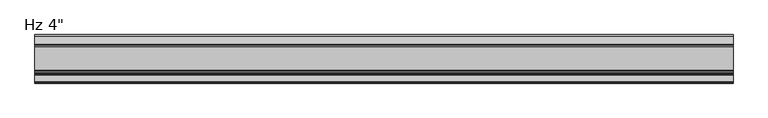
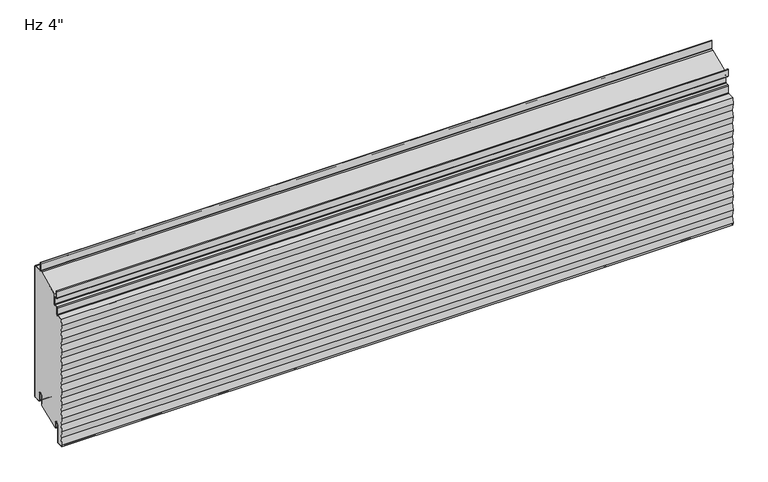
"""IFC4 building model written with IfcOpenShell, lengths in millimetres: plate geometry."""

from ifc_helpers import new_model, si_unit, point, frame, frame_2d, origin, place, context, project, spatial, polyline, circle_curve, ellipse_curve, trimmed, segment, composite_curve, outline, extrude, source, transform, mapped, element, save
from ifc_brep_helpers import plane_surface, cylinder_surface, revolved_surface, extruded_surface, advanced_brep


def plate_e58c1bb9(model_context):
    return source(origin(), model_context, "Body", "SolidModel", [
        extrude(outline(composite_curve([segment(trimmed(circle_curve(frame_2d((-21.43125, 19.05)), 4.96875), [point((-16.4625, 19.05))], [point((-26.4, 19.05))], True, "CARTESIAN"), True, "CONTINUOUS"), segment(polyline([(-26.4, 19.05), (-26.4, -3.1323422), (-74.6157227, -23.01875), (-76.2, -23.01875), (-76.2, -13.5080174), (-76.99375, -13.5080174), (-76.7875, -11.9205174)]), True, "CONTINUOUS"), segment(trimmed(circle_curve(frame_2d((-81.75625, -11.9205174)), 4.96875), [point((-76.7875, -11.9205174))], [point((-86.725, -11.9205174))], True, "CARTESIAN"), True, "CONTINUOUS"), segment(polyline([(-86.725, -11.9205174), (-86.725, -50.1038221)]), True, "CONTINUOUS"), segment(trimmed(circle_curve(frame_2d((-88.10625, -50.1038221)), 1.38125), [point((-86.725, -50.1038221))], [point((-88.033961, -51.4831791))], False, "CARTESIAN"), True, "CONTINUOUS"), segment(polyline([(-88.033961, -51.4831791), (-99.146461, -52.0655606)]), True, "CONTINUOUS"), segment(trimmed(circle_curve(frame_2d((-99.21875, -50.6862035)), 1.38125), [point((-99.146461, -52.0655606))], [point((-100.5310452, -51.1171708))], False, "CARTESIAN"), True, "CONTINUOUS"), segment(polyline([(-100.5310452, -51.1171708), (-100.8936034, -48.8511825), (-98.4552034, -33.6111825), (-100.8936034, -18.3711825), (-98.4552034, -3.1311825), (-100.8936034, 12.1088175), (-98.4552034, 27.3488175), (-100.8936034, 42.5888175), (-98.4552034, 57.8288175), (-100.8936034, 73.0688175), (-98.4552034, 88.3088175), (-100.8936034, 103.5488175), (-98.4552034, 118.7888175), (-100.8936034, 134.0288175), (-98.4552034, 149.2688175), (-100.8936034, 164.5088175), (-98.4552034, 179.7488175), (-100.8936034, 194.9888175), (-98.4552034, 210.2288175), (-100.8611926, 225.26625), (-98.81595, 238.0490161), (-85.5895807, 238.7421807)]), True, "CONTINUOUS"), segment(trimmed(circle_curve(frame_2d((-85.725, 241.3261347)), 2.5875), [point((-85.5895807, 238.7421807))], [point((-83.1375, 241.3261347))], True, "CARTESIAN"), True, "CONTINUOUS"), segment(polyline([(-83.1375, 241.3261347), (-83.1375, 255.4824411)]), True, "CONTINUOUS"), segment(trimmed(circle_curve(frame_2d((-81.75625, 255.4824411)), 1.38125), [point((-83.1375, 255.4824411))], [point((-81.828539, 256.8617981))], False, "CARTESIAN"), True, "CONTINUOUS"), segment(polyline([(-81.828539, 256.8617981), (-76.0645807, 257.1638744)]), True, "CONTINUOUS"), segment(trimmed(circle_curve(frame_2d((-76.2, 259.7478283)), 2.5875), [point((-76.0645807, 257.1638744))], [point((-73.6125, 259.7478283))], True, "CARTESIAN"), True, "CONTINUOUS"), segment(polyline([(-73.6125, 259.7478283), (-73.6125, 282.1892934), (-24.9057308, 303.00625), (-2.38125, 303.00625)]), True, "CONTINUOUS"), segment(trimmed(circle_curve(frame_2d((-2.38125, 301.625)), 1.38125), [point((-2.38125, 303.00625))], [point((-1.0, 301.625))], False, "CARTESIAN"), True, "CONTINUOUS"), segment(polyline([(-1.0, 301.625), (-1.0, 3.175)]), True, "CONTINUOUS"), segment(trimmed(circle_curve(frame_2d((-2.38125, 3.175)), 1.38125), [point((-1.0, 3.175))], [point((-2.38125, 1.79375))], False, "CARTESIAN"), True, "CONTINUOUS"), segment(polyline([(-2.38125, 1.79375), (-15.08125, 1.79375)]), True, "CONTINUOUS"), segment(trimmed(circle_curve(frame_2d((-15.08125, 3.175)), 1.38125), [point((-15.08125, 1.79375))], [point((-16.4625, 3.175))], False, "CARTESIAN"), True, "CONTINUOUS"), segment(polyline([(-16.4625, 3.175), (-16.4625, 19.05)]), True, "CONTINUOUS")], self_intersect=False)), frame((-730.0, 0.0, 0.0), z_axis=(1.0, 0.0, 0.0), x_axis=(0.0, 1.0, 0.0)), (0.0, 0.0, 1.0), 1460.0),
        extrude(outline(composite_curve([segment(polyline([(-25.4, 0.79375), (-26.4, 0.79375), (-26.4, 19.05)]), True, "CONTINUOUS"), segment(trimmed(circle_curve(frame_2d((-21.43125, 19.05)), 4.96875), [point((-26.4, 19.05))], [point((-16.4625, 19.05))], False, "CARTESIAN"), True, "CONTINUOUS"), segment(polyline([(-16.4625, 19.05), (-16.4625, 3.175)]), True, "CONTINUOUS"), segment(trimmed(circle_curve(frame_2d((-15.08125, 3.175)), 1.38125), [point((-16.4625, 3.175))], [point((-15.08125, 1.79375))], True, "CARTESIAN"), True, "CONTINUOUS"), segment(polyline([(-15.08125, 1.79375), (-2.38125, 1.79375)]), True, "CONTINUOUS"), segment(trimmed(circle_curve(frame_2d((-2.38125, 3.175)), 1.38125), [point((-2.38125, 1.79375))], [point((-1.0, 3.175))], True, "CARTESIAN"), True, "CONTINUOUS"), segment(polyline([(-1.0, 3.175), (-1.0, 301.625)]), True, "CONTINUOUS"), segment(trimmed(circle_curve(frame_2d((-2.38125, 301.625)), 1.38125), [point((-1.0, 301.625))], [point((-2.38125, 303.00625))], True, "CARTESIAN"), True, "CONTINUOUS"), segment(polyline([(-2.38125, 303.00625), (-19.446875, 303.00625)]), True, "CONTINUOUS"), segment(trimmed(circle_curve(frame_2d((-19.446875, 305.59375)), 2.5875), [point((-19.446875, 303.00625))], [point((-22.034375, 305.59375))], False, "CARTESIAN"), True, "CONTINUOUS"), segment(polyline([(-22.034375, 305.59375), (-22.034375, 323.05625), (-21.034375, 323.05625), (-21.034375, 305.59375)]), True, "CONTINUOUS"), segment(trimmed(circle_curve(frame_2d((-19.446875, 305.59375)), 1.5875), [point((-21.034375, 305.59375))], [point((-19.446875, 304.00625))], True, "CARTESIAN"), True, "CONTINUOUS"), segment(polyline([(-19.446875, 304.00625), (-2.38125, 304.00625)]), True, "CONTINUOUS"), segment(trimmed(circle_curve(frame_2d((-2.38125, 301.625)), 2.38125), [point((-2.38125, 304.00625))], [point((0.0, 301.625))], False, "CARTESIAN"), True, "CONTINUOUS"), segment(polyline([(0.0, 301.625), (0.0, 3.175)]), True, "CONTINUOUS"), segment(trimmed(circle_curve(frame_2d((-2.38125, 3.175)), 2.38125), [point((0.0, 3.175))], [point((-2.38125, 0.79375))], False, "CARTESIAN"), True, "CONTINUOUS"), segment(polyline([(-2.38125, 0.79375), (-15.08125, 0.79375)]), True, "CONTINUOUS"), segment(trimmed(circle_curve(frame_2d((-15.08125, 3.175)), 2.38125), [point((-15.08125, 0.79375))], [point((-17.4625, 3.175))], False, "CARTESIAN"), True, "CONTINUOUS"), segment(polyline([(-17.4625, 3.175), (-17.4625, 19.05)]), True, "CONTINUOUS"), segment(trimmed(circle_curve(frame_2d((-21.43125, 19.05)), 3.96875), [point((-17.4625, 19.05))], [point((-25.4, 19.05))], True, "CARTESIAN"), True, "CONTINUOUS"), segment(polyline([(-25.4, 19.05), (-25.4, 0.79375)]), True, "CONTINUOUS")], self_intersect=False)), frame((-730.0, 0.0, 0.0), z_axis=(1.0, 0.0, 0.0), x_axis=(0.0, 1.0, 0.0)), (0.0, 0.0, 1.0), 1460.0),
        advanced_brep(
        [(-730.0, -76.2, -23.2314549), (-730.0, -77.7875, -23.2314549), (-730.0, -77.7875, -11.9205174), (-730.0, -85.725, -11.9205174), (-730.0, -85.725, -50.1038221), (-730.0, -87.981625, -52.4818086), (-730.0, -100.913818, -53.1595562), (-730.0, -101.6, -48.8709186), (-730.0, -99.1616, -33.6309186), (-730.0, -101.6, -18.3909186), (-730.0, -99.1616, -3.1509186), (-730.0, -101.6, 12.0890814), (-730.0, -99.1616, 27.3290814), (-730.0, -101.6, 42.5690814), (-730.0, -99.1616, 57.8090814), (-730.0, -101.6, 73.0490814), (-730.0, -99.1616, 88.2890814), (-730.0, -101.6, 103.5290814), (-730.0, -99.1616, 118.7690814), (-730.0, -101.6, 134.0090814), (-730.0, -99.1616, 149.2490814), (-730.0, -101.6, 164.4890814), (-730.0, -99.1616, 179.7290814), (-730.0, -101.6, 194.9690814), (-730.0, -99.1616, 210.2090814), (-730.0, -101.5837946, 225.3477976), (-730.0, -99.4289309, 239.0182635), (-730.0, -85.6419167, 239.7408103), (-730.0, -84.1375, 241.3261347), (-730.0, -84.1375, 255.4824411), (-730.0, -81.880875, 257.8604276), (-730.0, -76.1169167, 258.1625039), (-730.0, -74.6125, 259.7478283), (-730.0, -74.6125, 274.6232326), (-730.0, -76.2, 276.2107326), (-730.0, -80.3671875, 276.2107326), (-730.0, -82.7484375, 278.5919826), (-730.0, -82.7484375, 293.0836032), (-730.0, -80.9546875, 293.0836032), (-730.0, -80.9546875, 283.3544826), (-730.0, -81.7484375, 283.3544826), (-730.0, -81.7484375, 278.5919826), (-730.0, -80.3671875, 277.2107326), (-730.0, -76.2, 277.2107326), (-730.0, -73.6125, 274.6232326), (-730.0, -73.6125, 259.7478283), (-730.0, -76.0645807, 257.1638744), (-730.0, -81.828539, 256.8617981), (-730.0, -83.1375, 255.4824411), (-730.0, -83.1375, 241.3261347), (-730.0, -85.5895807, 238.7421807), (-730.0, -98.5692225, 238.0619465), (-730.0, -100.5872809, 225.4490814), (-730.0, -98.1488809, 210.2090814), (-730.0, -100.5872809, 194.9690814), (-730.0, -98.1488809, 179.7290814), (-730.0, -100.5872809, 164.4890814), (-730.0, -98.1488809, 149.2490814), (-730.0, -100.5872809, 134.0090814), (-730.0, -98.1488809, 118.7690814), (-730.0, -100.5872809, 103.5290814), (-730.0, -98.1488809, 88.2890814), (-730.0, -100.5872809, 73.0490814), (-730.0, -98.1488809, 57.8090814), (-730.0, -100.5872809, 42.5690814), (-730.0, -98.1488809, 27.3290814), (-730.0, -100.5872809, 12.0890814), (-730.0, -98.1488809, -3.1509186), (-730.0, -100.5872809, -18.3909186), (-730.0, -98.1488809, -33.6309186), (-730.0, -100.5872809, -48.8709186), (-730.0, -100.0684074, -52.1138777), (-730.0, -88.033961, -51.4831791), (-730.0, -86.725, -50.1038221), (-730.0, -86.725, -11.9205174), (-730.0, -76.7875, -11.9205174), (-730.0, -76.99375, -13.5080174), (-730.0, -76.2, -13.5080174), (730.0, -76.2, -23.2314549), (730.0, -76.2, -13.5080174), (730.0, -76.99375, -13.5080174), (730.0, -76.7875, -11.9205174), (730.0, -86.725, -11.9205174), (730.0, -86.725, -50.1038221), (730.0, -88.033961, -51.4831791), (730.0, -100.0684074, -52.1138777), (730.0, -100.5872809, -48.8709186), (730.0, -98.1488809, -33.6309186), (730.0, -100.5872809, -18.3909186), (730.0, -98.1488809, -3.1509186), (730.0, -100.5872809, 12.0890814), (730.0, -98.1488809, 27.3290814), (730.0, -100.5872809, 42.5690814), (730.0, -98.1488809, 57.8090814), (730.0, -100.5872809, 73.0490814), (730.0, -98.1488809, 88.2890814), (730.0, -100.5872809, 103.5290814), (730.0, -98.1488809, 118.7690814), (730.0, -100.5872809, 134.0090814), (730.0, -98.1488809, 149.2490814), (730.0, -100.5872809, 164.4890814), (730.0, -98.1488809, 179.7290814), (730.0, -100.5872809, 194.9690814), (730.0, -98.1488809, 210.2090814), (730.0, -100.5710755, 225.3477976), (730.0, -98.5692225, 238.0619465), (730.0, -85.5895807, 238.7421807), (730.0, -83.1375, 241.3261347), (730.0, -83.1375, 255.4824411), (730.0, -81.828539, 256.8617981), (730.0, -76.0645807, 257.1638744), (730.0, -73.6125, 259.7478283), (730.0, -73.6125, 274.6232326), (730.0, -76.2, 277.2107326), (730.0, -80.3671875, 277.2107326), (730.0, -81.7484375, 278.5919826), (730.0, -81.7484375, 283.3544826), (730.0, -80.9546875, 283.3544826), (730.0, -80.9546875, 293.0836032), (730.0, -82.7484375, 293.0836032), (730.0, -82.7484375, 278.5919826), (730.0, -80.3671875, 276.2107326), (730.0, -76.2, 276.2107326), (730.0, -74.6125, 274.6232326), (730.0, -74.6125, 259.7478283), (730.0, -76.1169167, 258.1625039), (730.0, -81.880875, 257.8604276), (730.0, -84.1375, 255.4824411), (730.0, -84.1375, 241.3261347), (730.0, -85.6419167, 239.7408103), (730.0, -99.4289309, 239.0182635), (730.0, -101.6, 225.4490814), (730.0, -99.1616, 210.2090814), (730.0, -101.6, 194.9690814), (730.0, -99.1616, 179.7290814), (730.0, -101.6, 164.4890814), (730.0, -99.1616, 149.2490814), (730.0, -101.6, 134.0090814), (730.0, -99.1616, 118.7690814), (730.0, -101.6, 103.5290814), (730.0, -99.1616, 88.2890814), (730.0, -101.6, 73.0490814), (730.0, -99.1616, 57.8090814), (730.0, -101.6, 42.5690814), (730.0, -99.1616, 27.3290814), (730.0, -101.6, 12.0890814), (730.0, -99.1616, -3.1509186), (730.0, -101.6, -18.3909186), (730.0, -99.1616, -33.6309186), (730.0, -101.6, -48.8709186), (730.0, -100.913818, -53.1595562), (730.0, -87.981625, -52.4818086), (730.0, -85.725, -50.1038221), (730.0, -85.725, -11.9205174), (730.0, -77.7875, -11.9205174), (730.0, -77.7875, -23.2314549)],
        [
            (0, 1, circle_curve(frame((-730.0, -76.99375, -23.2314549), z_axis=(-1.0, 0.0, 0.0), x_axis=(0.0, 0.0, 1.0)), 0.79375)),
            (1, 2),
            (2, 3, circle_curve(frame((-730.0, -81.75625, -11.9205174), z_axis=(1.0, 0.0, 0.0), x_axis=(0.0, 0.0, 1.0)), 3.96875)),
            (3, 4),
            (4, 5, circle_curve(frame((-730.0, -88.10625, -50.1038221), z_axis=(-1.0, 0.0, 0.0), x_axis=(0.0, 0.0, 1.0)), 2.38125)),
            (5, 6),
            (6, 7),
            (7, 8),
            (8, 9),
            (9, 10),
            (10, 11),
            (11, 12),
            (12, 13),
            (13, 14),
            (14, 15),
            (15, 16),
            (16, 17),
            (17, 18),
            (18, 19),
            (19, 20),
            (20, 21),
            (21, 22),
            (22, 23),
            (23, 24),
            (24, 25),
            (25, 26),
            (26, 27),
            (27, 28, circle_curve(frame((-730.0, -85.725, 241.3261347), z_axis=(1.0, 0.0, 0.0), x_axis=(0.0, 0.0, 1.0)), 1.5875)),
            (28, 29),
            (29, 30, circle_curve(frame((-730.0, -81.75625, 255.4824411), z_axis=(-1.0, 0.0, 0.0), x_axis=(0.0, 0.0, 1.0)), 2.38125)),
            (30, 31),
            (31, 32, circle_curve(frame((-730.0, -76.2, 259.7478283), z_axis=(1.0, 0.0, 0.0), x_axis=(0.0, 0.0, 1.0)), 1.5875)),
            (32, 33),
            (33, 34, circle_curve(frame((-730.0, -76.2, 274.6232326), z_axis=(1.0, 0.0, 0.0), x_axis=(0.0, 0.0, 1.0)), 1.5875)),
            (34, 35),
            (35, 36, circle_curve(frame((-730.0, -80.3671875, 278.5919826), z_axis=(-1.0, 0.0, 0.0), x_axis=(0.0, 0.0, 1.0)), 2.38125)),
            (36, 37),
            (37, 38, ellipse_curve(frame((-730.0, -81.8515625, 293.0836032), z_axis=(-1.0, 0.0, 0.0), x_axis=(0.0, 1.0, 0.0)), 0.896875, 0.7852275)),
            (38, 39),
            (39, 40),
            (40, 41),
            (41, 42, circle_curve(frame((-730.0, -80.3671875, 278.5919826), z_axis=(1.0, 0.0, 0.0), x_axis=(0.0, 0.0, 1.0)), 1.38125)),
            (42, 43),
            (43, 44, circle_curve(frame((-730.0, -76.2, 274.6232326), z_axis=(-1.0, 0.0, 0.0), x_axis=(0.0, 0.0, 1.0)), 2.5875)),
            (44, 45),
            (45, 46, circle_curve(frame((-730.0, -76.2, 259.7478283), z_axis=(-1.0, 0.0, 0.0), x_axis=(0.0, 0.0, 1.0)), 2.5875)),
            (46, 47),
            (47, 48, circle_curve(frame((-730.0, -81.75625, 255.4824411), z_axis=(1.0, 0.0, 0.0), x_axis=(0.0, 0.0, 1.0)), 1.38125)),
            (48, 49),
            (49, 50, circle_curve(frame((-730.0, -85.725, 241.3261347), z_axis=(-1.0, 0.0, 0.0), x_axis=(0.0, 0.0, 1.0)), 2.5875)),
            (50, 51),
            (51, 52),
            (52, 53),
            (53, 54),
            (54, 55),
            (55, 56),
            (56, 57),
            (57, 58),
            (58, 59),
            (59, 60),
            (60, 61),
            (61, 62),
            (62, 63),
            (63, 64),
            (64, 65),
            (65, 66),
            (66, 67),
            (67, 68),
            (68, 69),
            (69, 70),
            (70, 71),
            (71, 72),
            (72, 73, circle_curve(frame((-730.0, -88.10625, -50.1038221), z_axis=(1.0, 0.0, 0.0), x_axis=(0.0, 0.0, 1.0)), 1.38125)),
            (73, 74),
            (74, 75, circle_curve(frame((-730.0, -81.75625, -11.9205174), z_axis=(-1.0, 0.0, 0.0), x_axis=(0.0, 0.0, 1.0)), 4.96875)),
            (75, 76),
            (76, 77),
            (77, 0),
            (78, 79),
            (79, 80),
            (80, 81),
            (81, 82, circle_curve(frame((730.0, -81.75625, -11.9205174), z_axis=(1.0, 0.0, 0.0), x_axis=(0.0, 0.0, 1.0)), 4.96875)),
            (82, 83),
            (83, 84, circle_curve(frame((730.0, -88.10625, -50.1038221), z_axis=(-1.0, 0.0, 0.0), x_axis=(0.0, 0.0, 1.0)), 1.38125)),
            (84, 85),
            (85, 86),
            (86, 87),
            (87, 88),
            (88, 89),
            (89, 90),
            (90, 91),
            (91, 92),
            (92, 93),
            (93, 94),
            (94, 95),
            (95, 96),
            (96, 97),
            (97, 98),
            (98, 99),
            (99, 100),
            (100, 101),
            (101, 102),
            (102, 103),
            (103, 104),
            (104, 105),
            (105, 106),
            (106, 107, circle_curve(frame((730.0, -85.725, 241.3261347), z_axis=(1.0, 0.0, 0.0), x_axis=(0.0, 0.0, 1.0)), 2.5875)),
            (107, 108),
            (108, 109, circle_curve(frame((730.0, -81.75625, 255.4824411), z_axis=(-1.0, 0.0, 0.0), x_axis=(0.0, 0.0, 1.0)), 1.38125)),
            (109, 110),
            (110, 111, circle_curve(frame((730.0, -76.2, 259.7478283), z_axis=(1.0, 0.0, 0.0), x_axis=(0.0, 0.0, 1.0)), 2.5875)),
            (111, 112),
            (112, 113, circle_curve(frame((730.0, -76.2, 274.6232326), z_axis=(1.0, 0.0, 0.0), x_axis=(0.0, 0.0, 1.0)), 2.5875)),
            (113, 114),
            (114, 115, circle_curve(frame((730.0, -80.3671875, 278.5919826), z_axis=(-1.0, 0.0, 0.0), x_axis=(0.0, 0.0, 1.0)), 1.38125)),
            (115, 116),
            (116, 117),
            (117, 118),
            (118, 119, ellipse_curve(frame((730.0, -81.8515625, 293.0836032), z_axis=(1.0, 0.0, 0.0), x_axis=(0.0, 1.0, 0.0)), 0.896875, 0.7852275)),
            (119, 120),
            (120, 121, circle_curve(frame((730.0, -80.3671875, 278.5919826), z_axis=(1.0, 0.0, 0.0), x_axis=(0.0, 0.0, 1.0)), 2.38125)),
            (121, 122),
            (122, 123, circle_curve(frame((730.0, -76.2, 274.6232326), z_axis=(-1.0, 0.0, 0.0), x_axis=(0.0, 0.0, 1.0)), 1.5875)),
            (123, 124),
            (124, 125, circle_curve(frame((730.0, -76.2, 259.7478283), z_axis=(-1.0, 0.0, 0.0), x_axis=(0.0, 0.0, 1.0)), 1.5875)),
            (125, 126),
            (126, 127, circle_curve(frame((730.0, -81.75625, 255.4824411), z_axis=(1.0, 0.0, 0.0), x_axis=(0.0, 0.0, 1.0)), 2.38125)),
            (127, 128),
            (128, 129, circle_curve(frame((730.0, -85.725, 241.3261347), z_axis=(-1.0, 0.0, 0.0), x_axis=(0.0, 0.0, 1.0)), 1.5875)),
            (129, 130),
            (130, 131),
            (131, 132),
            (132, 133),
            (133, 134),
            (134, 135),
            (135, 136),
            (136, 137),
            (137, 138),
            (138, 139),
            (139, 140),
            (140, 141),
            (141, 142),
            (142, 143),
            (143, 144),
            (144, 145),
            (145, 146),
            (146, 147),
            (147, 148),
            (148, 149),
            (149, 150),
            (150, 151),
            (151, 152, circle_curve(frame((730.0, -88.10625, -50.1038221), z_axis=(1.0, 0.0, 0.0), x_axis=(0.0, 0.0, 1.0)), 2.38125)),
            (152, 153),
            (153, 154, circle_curve(frame((730.0, -81.75625, -11.9205174), z_axis=(-1.0, 0.0, 0.0), x_axis=(0.0, 0.0, 1.0)), 3.96875)),
            (154, 155),
            (155, 78, circle_curve(frame((730.0, -76.99375, -23.2314549), z_axis=(1.0, 0.0, 0.0), x_axis=(0.0, 0.0, 1.0)), 0.79375)),
            (56, 100),
            (99, 57),
            (98, 58),
            (97, 59),
            (71, 85),
            (84, 72),
            (83, 73),
            (82, 74),
            (81, 75),
            (76, 80),
            (79, 77),
            (39, 117),
            (116, 40),
            (38, 118),
            (37, 119),
            (26, 130),
            (129, 27),
            (50, 106),
            (105, 51),
            (24, 132),
            (131, 25),
            (52, 104),
            (103, 53),
            (102, 54),
            (101, 55),
            (21, 135),
            (134, 22),
            (133, 23),
            (20, 136),
            (18, 138),
            (137, 19),
            (16, 140),
            (139, 17),
            (14, 142),
            (141, 15),
            (12, 144),
            (143, 13),
            (10, 146),
            (145, 11),
            (8, 148),
            (147, 9),
            (6, 150),
            (149, 7),
            (69, 87),
            (86, 70),
            (67, 89),
            (88, 68),
            (65, 91),
            (90, 66),
            (63, 93),
            (92, 64),
            (61, 95),
            (94, 62),
            (96, 60),
            (49, 107),
            (47, 109),
            (108, 48),
            (45, 111),
            (110, 46),
            (41, 115),
            (114, 42),
            (43, 113),
            (112, 44),
            (36, 120),
            (34, 122),
            (121, 35),
            (32, 124),
            (123, 33),
            (30, 126),
            (125, 31),
            (28, 128),
            (127, 29),
            (5, 151),
            (3, 153),
            (152, 4),
            (1, 155),
            (154, 2),
            (78, 0),
        ],
        [
            plane_surface(frame((-730.0, -101.6, 152.4), z_axis=(-1.0, 0.0, 0.0), x_axis=(0.0, -1.0, 0.0))),
            plane_surface(frame((730.0, -101.6, 152.4), z_axis=(1.0, 0.0, 0.0), x_axis=(0.0, -1.0, 0.0))),
            plane_surface(frame((-730.0, -98.1488809, 149.2490814), z_axis=(0.0, 0.9874406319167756, 0.15799050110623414), x_axis=(1.0, 0.0, 0.0))),
            plane_surface(frame((-730.0, -100.5872809, 134.0090814), z_axis=(0.0, 0.987440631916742, -0.15799050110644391), x_axis=(1.0, 0.0, 0.0))),
            plane_surface(frame((-730.0, -98.1488809, 118.7690814), z_axis=(0.0, 0.987440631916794, 0.1579905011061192), x_axis=(1.0, 0.0, 0.0))),
            plane_surface(frame((-730.0, -88.033961, -51.4831791), z_axis=(0.0, -0.052335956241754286, 0.9986295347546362), x_axis=(1.0, 0.0, 0.0))),
            revolved_surface(polyline([(730.0, -88.10625, -48.7225721), (-730.0, -88.10625, -48.7225721)]), (-730.0, -88.10625, -50.1038221), (1.0, 0.0, 0.0)),
            plane_surface(frame((-730.0, -86.725, -11.9205174), z_axis=(0.0, -1.0, 0.0), x_axis=(1.0, 0.0, 0.0))),
            cylinder_surface(frame((-730.0, -81.75625, -11.9205174), z_axis=(-1.0, 0.0, 0.0), x_axis=(0.0, 0.0, 1.0)), 4.96875),
            plane_surface(frame((-730.0, -76.2, -13.5080174), z_axis=(0.0, 0.0, 1.0), x_axis=(1.0, 0.0, 0.0))),
            plane_surface(frame((-730.0, -76.99375, -13.5080174), z_axis=(0.0, 0.9916655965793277, -0.12883844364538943), x_axis=(1.0, 0.0, 0.0))),
            plane_surface(frame((-730.0, -81.7484375, 283.3544826), z_axis=(0.0, 0.0, -1.0), x_axis=(1.0, 0.0, 0.0))),
            plane_surface(frame((-730.0, -80.9546875, 283.3544826), z_axis=(0.0, 1.0, 0.0), x_axis=(1.0, 0.0, 0.0))),
            extruded_surface(trimmed(ellipse_curve(frame((-730.0, -81.8515625, 293.0836032), z_axis=(1.0, 0.0, 0.0), x_axis=(0.0, 1.0, 0.0)), 0.896875, 0.7852275), [point((-730.0, -80.9546875, 293.0836032))], [point((-730.0, -82.7484375, 293.0836032))], True, "CARTESIAN"), (1460.0, 0.0, 0.0), 1460.0),
            plane_surface(frame((-730.0, -85.6419167, 239.7408103), z_axis=(0.0, -0.052335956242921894, 0.998629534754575), x_axis=(1.0, 0.0, 0.0))),
            plane_surface(frame((-730.0, -98.5692225, 238.0619465), z_axis=(0.0, 0.05233595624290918, -0.9986295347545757), x_axis=(1.0, 0.0, 0.0))),
            plane_surface(frame((-730.0, -101.5837946, 225.3477976), z_axis=(0.0, -0.9874406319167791, -0.15799050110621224), x_axis=(1.0, 0.0, 0.0))),
            plane_surface(frame((-730.0, -98.1488809, 210.2090814), z_axis=(0.0, 0.9874406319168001, 0.15799050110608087), x_axis=(1.0, 0.0, 0.0))),
            plane_surface(frame((-730.0, -100.5872809, 194.9690814), z_axis=(0.0, 0.9874406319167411, -0.15799050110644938), x_axis=(1.0, 0.0, 0.0))),
            plane_surface(frame((-730.0, -98.1488809, 179.7290814), z_axis=(0.0, 0.987440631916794, 0.1579905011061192), x_axis=(1.0, 0.0, 0.0))),
            plane_surface(frame((-730.0, -100.5872809, 164.4890814), z_axis=(0.0, 0.987440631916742, -0.15799050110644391), x_axis=(1.0, 0.0, 0.0))),
            plane_surface(frame((-730.0, -99.1616, 179.7290814), z_axis=(0.0, -0.9874406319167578, 0.15799050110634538), x_axis=(1.0, 0.0, 0.0))),
            plane_surface(frame((-730.0, -101.6, 194.9690814), z_axis=(0.0, -0.9874406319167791, -0.15799050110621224), x_axis=(1.0, 0.0, 0.0))),
            plane_surface(frame((-730.0, -99.1616, 210.2090814), z_axis=(0.0, -0.9874406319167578, 0.15799050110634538), x_axis=(1.0, 0.0, 0.0))),
            plane_surface(frame((-730.0, -100.5872809, 225.4490814), z_axis=(0.0, 0.9874406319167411, -0.15799050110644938), x_axis=(1.0, 0.0, 0.0))),
            plane_surface(frame((-730.0, -99.4289309, 239.0182635), z_axis=(0.0, -0.9874406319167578, 0.15799050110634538), x_axis=(1.0, 0.0, 0.0))),
            plane_surface(frame((-730.0, -101.6, 164.4890814), z_axis=(0.0, -0.9874406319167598, -0.15799050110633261), x_axis=(1.0, 0.0, 0.0))),
            plane_surface(frame((-730.0, -101.6, 134.0090814), z_axis=(0.0, -0.9874406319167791, -0.15799050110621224), x_axis=(1.0, 0.0, 0.0))),
            plane_surface(frame((-730.0, -99.1616, 149.2490814), z_axis=(0.0, -0.9874406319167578, 0.15799050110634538), x_axis=(1.0, 0.0, 0.0))),
            plane_surface(frame((-730.0, -101.6, 103.5290814), z_axis=(0.0, -0.9874406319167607, -0.15799050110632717), x_axis=(1.0, 0.0, 0.0))),
            plane_surface(frame((-730.0, -101.6, 73.0490814), z_axis=(0.0, -0.9874406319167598, -0.15799050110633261), x_axis=(1.0, 0.0, 0.0))),
            plane_surface(frame((-730.0, -99.1616, 88.2890814), z_axis=(0.0, -0.9874406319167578, 0.15799050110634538), x_axis=(1.0, 0.0, 0.0))),
            plane_surface(frame((-730.0, -99.1616, 118.7690814), z_axis=(0.0, -0.9874406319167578, 0.15799050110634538), x_axis=(1.0, 0.0, 0.0))),
            plane_surface(frame((-730.0, -101.6, 42.5690814), z_axis=(0.0, -0.9874406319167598, -0.15799050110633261), x_axis=(1.0, 0.0, 0.0))),
            plane_surface(frame((-730.0, -101.6, 12.0890814), z_axis=(0.0, -0.9874406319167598, -0.15799050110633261), x_axis=(1.0, 0.0, 0.0))),
            plane_surface(frame((-730.0, -99.1616, 27.3290814), z_axis=(0.0, -0.9874406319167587, 0.15799050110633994), x_axis=(1.0, 0.0, 0.0))),
            plane_surface(frame((-730.0, -99.1616, 57.8090814), z_axis=(0.0, -0.9874406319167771, 0.157990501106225), x_axis=(1.0, 0.0, 0.0))),
            plane_surface(frame((-730.0, -101.6, -18.3909186), z_axis=(0.0, -0.9874406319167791, -0.15799050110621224), x_axis=(1.0, 0.0, 0.0))),
            plane_surface(frame((-730.0, -101.6, -48.8709186), z_axis=(0.0, -0.9874406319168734, -0.15799050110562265), x_axis=(1.0, 0.0, 0.0))),
            plane_surface(frame((-730.0, -99.1616, -33.6309186), z_axis=(0.0, -0.9874406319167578, 0.15799050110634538), x_axis=(1.0, 0.0, 0.0))),
            plane_surface(frame((-730.0, -99.1616, -3.1509186), z_axis=(0.0, -0.9874406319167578, 0.15799050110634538), x_axis=(1.0, 0.0, 0.0))),
            plane_surface(frame((-730.0, -100.5872809, -48.8709186), z_axis=(0.0, 0.9874406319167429, -0.15799050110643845), x_axis=(1.0, 0.0, 0.0))),
            plane_surface(frame((-730.0, -100.5872809, -18.3909186), z_axis=(0.0, 0.987440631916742, -0.15799050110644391), x_axis=(1.0, 0.0, 0.0))),
            plane_surface(frame((-730.0, -98.1488809, -33.6309186), z_axis=(0.0, 0.987440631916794, 0.1579905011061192), x_axis=(1.0, 0.0, 0.0))),
            plane_surface(frame((-730.0, -100.0684074, -52.1138777), z_axis=(0.0, 0.987440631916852, 0.1579905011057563), x_axis=(1.0, 0.0, 0.0))),
            plane_surface(frame((-730.0, -100.5872809, 12.0890814), z_axis=(0.0, 0.987440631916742, -0.15799050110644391), x_axis=(1.0, 0.0, 0.0))),
            plane_surface(frame((-730.0, -100.5872809, 42.5690814), z_axis=(0.0, 0.9874406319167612, -0.1579905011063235), x_axis=(1.0, 0.0, 0.0))),
            plane_surface(frame((-730.0, -98.1488809, 27.3290814), z_axis=(0.0, 0.9874406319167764, 0.15799050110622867), x_axis=(1.0, 0.0, 0.0))),
            plane_surface(frame((-730.0, -98.1488809, -3.1509186), z_axis=(0.0, 0.9874406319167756, 0.15799050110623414), x_axis=(1.0, 0.0, 0.0))),
            plane_surface(frame((-730.0, -100.5872809, 73.0490814), z_axis=(0.0, 0.9874406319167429, -0.15799050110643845), x_axis=(1.0, 0.0, 0.0))),
            plane_surface(frame((-730.0, -100.5872809, 103.5290814), z_axis=(0.0, 0.987440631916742, -0.15799050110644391), x_axis=(1.0, 0.0, 0.0))),
            plane_surface(frame((-730.0, -98.1488809, 88.2890814), z_axis=(0.0, 0.9874406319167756, 0.15799050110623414), x_axis=(1.0, 0.0, 0.0))),
            plane_surface(frame((-730.0, -98.1488809, 57.8090814), z_axis=(0.0, 0.9874406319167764, 0.15799050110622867), x_axis=(1.0, 0.0, 0.0))),
            cylinder_surface(frame((-730.0, -85.725, 241.3261347), z_axis=(-1.0, 0.0, 0.0), x_axis=(0.0, 0.0, 1.0)), 2.5875),
            revolved_surface(polyline([(730.0, -81.75625, 256.8636911), (-730.0, -81.75625, 256.8636911)]), (-730.0, -81.75625, 255.4824411), (1.0, 0.0, 0.0)),
            cylinder_surface(frame((-730.0, -76.2, 259.7478283), z_axis=(-1.0, 0.0, 0.0), x_axis=(0.0, 0.0, 1.0)), 2.5875),
            plane_surface(frame((-730.0, -81.828539, 256.8617981), z_axis=(0.0, 0.0523359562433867, -0.9986295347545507), x_axis=(1.0, 0.0, 0.0))),
            plane_surface(frame((-730.0, -83.1375, 241.3261347), z_axis=(0.0, 1.0, 0.0), x_axis=(1.0, 0.0, 0.0))),
            revolved_surface(polyline([(730.0, -80.3671875, 279.9732326), (-730.0, -80.3671875, 279.9732326)]), (-730.0, -80.3671875, 278.5919826), (1.0, 0.0, 0.0)),
            cylinder_surface(frame((-730.0, -76.2, 274.6232326), z_axis=(-1.0, 0.0, 0.0), x_axis=(0.0, 0.0, 1.0)), 2.5875),
            plane_surface(frame((-730.0, -76.2, 277.2107326), z_axis=(0.0, 0.0, 1.0), x_axis=(1.0, 0.0, 0.0))),
            plane_surface(frame((-730.0, -81.7484375, 278.5919826), z_axis=(0.0, 1.0, 0.0), x_axis=(1.0, 0.0, 0.0))),
            plane_surface(frame((-730.0, -82.7484375, 293.0836032), z_axis=(0.0, -1.0, 0.0), x_axis=(1.0, 0.0, 0.0))),
            plane_surface(frame((-730.0, -80.3671875, 276.2107326), z_axis=(0.0, 0.0, -1.0), x_axis=(1.0, 0.0, 0.0))),
            cylinder_surface(frame((-730.0, -80.3671875, 278.5919826), z_axis=(-1.0, 0.0, 0.0), x_axis=(0.0, 0.0, 1.0)), 2.38125),
            plane_surface(frame((-730.0, -73.6125, 259.7478283), z_axis=(0.0, 1.0, 0.0), x_axis=(1.0, 0.0, 0.0))),
            plane_surface(frame((-730.0, -74.6125, 274.6232326), z_axis=(0.0, -1.0, 0.0), x_axis=(1.0, 0.0, 0.0))),
            plane_surface(frame((-730.0, -76.1169167, 258.1625039), z_axis=(0.0, -0.052335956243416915, 0.9986295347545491), x_axis=(1.0, 0.0, 0.0))),
            revolved_surface(polyline([(730.0, -76.2, 261.33532829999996), (-730.0, -76.2, 261.33532829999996)]), (-730.0, -76.2, 259.7478283), (1.0, 0.0, 0.0)),
            revolved_surface(polyline([(730.0, -76.2, 276.2107326), (-730.0, -76.2, 276.2107326)]), (-730.0, -76.2, 274.6232326), (1.0, 0.0, 0.0)),
            plane_surface(frame((-730.0, -84.1375, 255.4824411), z_axis=(0.0, -1.0, 0.0), x_axis=(1.0, 0.0, 0.0))),
            revolved_surface(polyline([(730.0, -85.725, 242.91363470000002), (-730.0, -85.725, 242.91363470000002)]), (-730.0, -85.725, 241.3261347), (1.0, 0.0, 0.0)),
            cylinder_surface(frame((-730.0, -81.75625, 255.4824411), z_axis=(-1.0, 0.0, 0.0), x_axis=(0.0, 0.0, 1.0)), 2.38125),
            plane_surface(frame((-730.0, -100.913818, -53.1595562), z_axis=(0.0, 0.052335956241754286, -0.9986295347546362), x_axis=(1.0, 0.0, 0.0))),
            plane_surface(frame((-730.0, -85.725, -50.1038221), z_axis=(0.0, 1.0, 0.0), x_axis=(1.0, 0.0, 0.0))),
            plane_surface(frame((-730.0, -77.7875, -11.9205174), z_axis=(0.0, -1.0, 0.0), x_axis=(1.0, 0.0, 0.0))),
            revolved_surface(polyline([(730.0, -81.75625, -7.9517674), (-730.0, -81.75625, -7.9517674)]), (-730.0, -81.75625, -11.9205174), (1.0, 0.0, 0.0)),
            cylinder_surface(frame((-730.0, -88.10625, -50.1038221), z_axis=(-1.0, 0.0, 0.0), x_axis=(0.0, 0.0, 1.0)), 2.38125),
            plane_surface(frame((-730.0, -76.2, -23.2314549), z_axis=(0.0, 1.0, 0.0), x_axis=(1.0, 0.0, 0.0))),
            cylinder_surface(frame((-730.0, -76.99375, -23.2314549), z_axis=(-1.0, 0.0, 0.0), x_axis=(0.0, 0.0, 1.0)), 0.79375),
        ],
        [
            (0, [[1, 2, 3, 4, 5, 6, 7, 8, 9, 10, 11, 12, 13, 14, 15, 16, 17, 18, 19, 20, 21, 22, 23, 24, 25, 26, 27, 28, 29, 30, 31, 32, 33, 34, 35, 36, 37, 38, 39, 40, 41, 42, 43, 44, 45, 46, 47, 48, 49, 50, 51, 52, 53, 54, 55, 56, 57, 58, 59, 60, 61, 62, 63, 64, 65, 66, 67, 68, 69, 70, 71, 72, 73, 74, 75, 76, 77, 78]]),
            (1, [[79, 80, 81, 82, 83, 84, 85, 86, 87, 88, 89, 90, 91, 92, 93, 94, 95, 96, 97, 98, 99, 100, 101, 102, 103, 104, 105, 106, 107, 108, 109, 110, 111, 112, 113, 114, 115, 116, 117, 118, 119, 120, 121, 122, 123, 124, 125, 126, 127, 128, 129, 130, 131, 132, 133, 134, 135, 136, 137, 138, 139, 140, 141, 142, 143, 144, 145, 146, 147, 148, 149, 150, 151, 152, 153, 154, 155, 156]]),
            (2, [[157, -100, 158, -57]]),
            (3, [[-158, -99, 159, -58]]),
            (4, [[-159, -98, 160, -59]]),
            (5, [[161, -85, 162, -72]]),
            (6, [[-162, -84, 163, -73]]),
            (7, [[-163, -83, 164, -74]]),
            (8, [[-164, -82, 165, -75]]),
            (9, [[166, -80, 167, -77]]),
            (10, [[-165, -81, -166, -76]]),
            (11, [[168, -117, 169, -40]]),
            (12, [[170, -118, -168, -39]]),
            (13, [[171, -119, -170, -38]]),
            (14, [[172, -130, 173, -27]]),
            (15, [[174, -106, 175, -51]]),
            (16, [[176, -132, 177, -25]]),
            (17, [[178, -104, 179, -53]]),
            (18, [[-179, -103, 180, -54]]),
            (19, [[-180, -102, 181, -55]]),
            (20, [[-181, -101, -157, -56]]),
            (21, [[182, -135, 183, -22]]),
            (22, [[-183, -134, 184, -23]]),
            (23, [[-184, -133, -176, -24]]),
            (24, [[-175, -105, -178, -52]]),
            (25, [[-177, -131, -172, -26]]),
            (26, [[185, -136, -182, -21]]),
            (27, [[186, -138, 187, -19]]),
            (28, [[-187, -137, -185, -20]]),
            (29, [[188, -140, 189, -17]]),
            (30, [[190, -142, 191, -15]]),
            (31, [[-191, -141, -188, -16]]),
            (32, [[-189, -139, -186, -18]]),
            (33, [[192, -144, 193, -13]]),
            (34, [[194, -146, 195, -11]]),
            (35, [[-195, -145, -192, -12]]),
            (36, [[-193, -143, -190, -14]]),
            (37, [[196, -148, 197, -9]]),
            (38, [[198, -150, 199, -7]]),
            (39, [[-199, -149, -196, -8]]),
            (40, [[-197, -147, -194, -10]]),
            (41, [[200, -87, 201, -70]]),
            (42, [[202, -89, 203, -68]]),
            (43, [[-203, -88, -200, -69]]),
            (44, [[-201, -86, -161, -71]]),
            (45, [[204, -91, 205, -66]]),
            (46, [[206, -93, 207, -64]]),
            (47, [[-207, -92, -204, -65]]),
            (48, [[-205, -90, -202, -67]]),
            (49, [[208, -95, 209, -62]]),
            (50, [[-160, -97, 210, -60]]),
            (51, [[-210, -96, -208, -61]]),
            (52, [[-209, -94, -206, -63]]),
            (53, [[211, -107, -174, -50]]),
            (54, [[212, -109, 213, -48]]),
            (55, [[214, -111, 215, -46]]),
            (56, [[-215, -110, -212, -47]]),
            (57, [[-213, -108, -211, -49]]),
            (58, [[216, -115, 217, -42]]),
            (59, [[218, -113, 219, -44]]),
            (60, [[-217, -114, -218, -43]]),
            (61, [[-169, -116, -216, -41]]),
            (62, [[220, -120, -171, -37]]),
            (63, [[221, -122, 222, -35]]),
            (64, [[-222, -121, -220, -36]]),
            (65, [[-219, -112, -214, -45]]),
            (66, [[223, -124, 224, -33]]),
            (67, [[225, -126, 226, -31]]),
            (68, [[-226, -125, -223, -32]]),
            (69, [[-224, -123, -221, -34]]),
            (70, [[227, -128, 228, -29]]),
            (71, [[-173, -129, -227, -28]]),
            (72, [[-228, -127, -225, -30]]),
            (73, [[229, -151, -198, -6]]),
            (74, [[230, -153, 231, -4]]),
            (75, [[232, -155, 233, -2]]),
            (76, [[-233, -154, -230, -3]]),
            (77, [[-231, -152, -229, -5]]),
            (78, [[-167, -79, 234, -78]]),
            (79, [[-234, -156, -232, -1]]),
        ],
    ),
    ])


if __name__ == "__main__":
    model = new_model("IFC4")
    model_context = context("Model", 3, world=origin())
    ifc_project = project(units=[si_unit("LENGTHUNIT", "METRE", prefix="MILLI")], contexts=[model_context])
    site = spatial("IfcSite", under=ifc_project)
    building = spatial("IfcBuilding", under=site)
    placement = place(None, origin())
    plate_shape = plate_e58c1bb9(model_context)
    element("IfcPlate", 1, ObjectType="KIP-12-DWHR-R19-CP-Hz-S : Hz 4\"", at=placement, inside=building, context=model_context, shape_type="MappedRepresentation", body=[
        mapped(plate_shape, transform((0.0, 0.0, 0.0), x_axis=(1.0, 0.0, 0.0), y_axis=(0.0, 1.0, 0.0), z_axis=(0.0, 0.0, 1.0))),
    ])
    save(model, "model.ifc")
